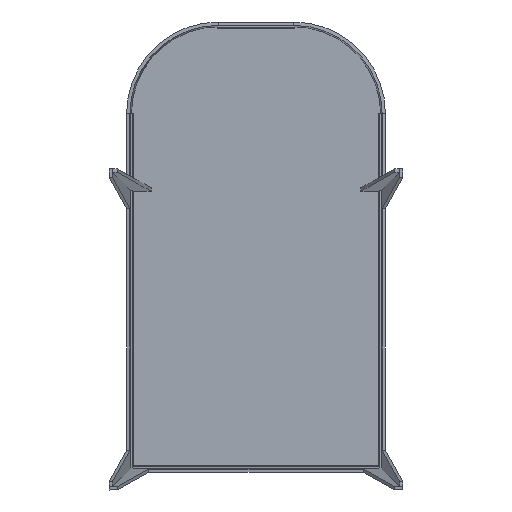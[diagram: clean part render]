
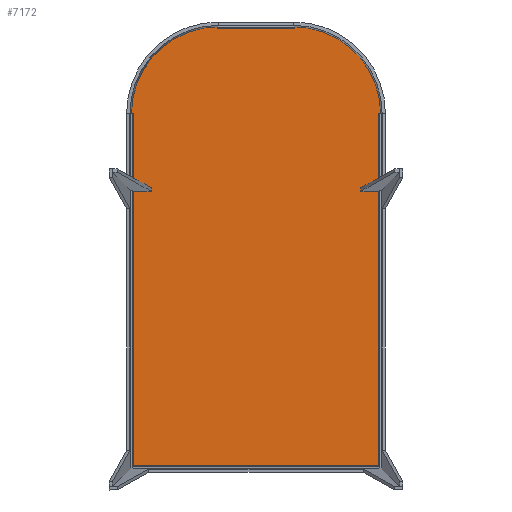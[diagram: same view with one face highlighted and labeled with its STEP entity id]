
A CAD part, front view. The second image highlights one B-rep face of the part: STEP entity #7172.
In plain terms, the highlighted planar face has unit normal (0, -1, 0) as drawn and (0, 0, 1) by its records, which use the part's own axes.
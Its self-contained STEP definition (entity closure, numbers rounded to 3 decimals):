
#130=CIRCLE('',#8004,157.);
#132=CIRCLE('',#8007,157.);
#763=ORIENTED_EDGE('',*,*,#2754,.T.);
#764=ORIENTED_EDGE('',*,*,#2750,.T.);
#765=ORIENTED_EDGE('',*,*,#2743,.T.);
#766=ORIENTED_EDGE('',*,*,#2748,.T.);
#767=ORIENTED_EDGE('',*,*,#2758,.T.);
#768=ORIENTED_EDGE('',*,*,#2762,.F.);
#769=ORIENTED_EDGE('',*,*,#2763,.T.);
#770=ORIENTED_EDGE('',*,*,#2764,.T.);
#771=ORIENTED_EDGE('',*,*,#2765,.T.);
#772=ORIENTED_EDGE('',*,*,#2766,.T.);
#773=ORIENTED_EDGE('',*,*,#2767,.T.);
#774=ORIENTED_EDGE('',*,*,#2768,.T.);
#775=ORIENTED_EDGE('',*,*,#2769,.T.);
#776=ORIENTED_EDGE('',*,*,#2759,.F.);
#2743=EDGE_CURVE('',#3747,#3746,#4411,.T.);
#2748=EDGE_CURVE('',#3746,#3749,#4415,.T.);
#2750=EDGE_CURVE('',#3750,#3747,#4417,.T.);
#2754=EDGE_CURVE('',#3753,#3750,#4421,.T.);
#2758=EDGE_CURVE('',#3749,#3755,#4425,.T.);
#2759=EDGE_CURVE('',#3753,#3756,#130,.T.);
#2762=EDGE_CURVE('',#3758,#3755,#132,.T.);
#2763=EDGE_CURVE('',#3758,#3759,#4427,.T.);
#2764=EDGE_CURVE('',#3759,#3760,#4428,.T.);
#2765=EDGE_CURVE('',#3760,#3761,#4429,.T.);
#2766=EDGE_CURVE('',#3761,#3762,#4430,.T.);
#2767=EDGE_CURVE('',#3762,#3763,#4431,.T.);
#2768=EDGE_CURVE('',#3763,#3764,#4432,.T.);
#2769=EDGE_CURVE('',#3764,#3756,#4433,.T.);
#3746=VERTEX_POINT('',#11018);
#3747=VERTEX_POINT('',#11020);
#3749=VERTEX_POINT('',#11027);
#3750=VERTEX_POINT('',#11032);
#3753=VERTEX_POINT('',#11040);
#3755=VERTEX_POINT('',#11046);
#3756=VERTEX_POINT('',#11050);
#3758=VERTEX_POINT('',#11056);
#3759=VERTEX_POINT('',#11058);
#3760=VERTEX_POINT('',#11060);
#3761=VERTEX_POINT('',#11062);
#3762=VERTEX_POINT('',#11064);
#3763=VERTEX_POINT('',#11066);
#3764=VERTEX_POINT('',#11068);
#4411=LINE('',#11019,#5128);
#4415=LINE('',#11028,#5132);
#4417=LINE('',#11031,#5134);
#4421=LINE('',#11039,#5138);
#4425=LINE('',#11047,#5142);
#4427=LINE('',#11057,#5144);
#4428=LINE('',#11059,#5145);
#4429=LINE('',#11061,#5146);
#4430=LINE('',#11063,#5147);
#4431=LINE('',#11065,#5148);
#4432=LINE('',#11067,#5149);
#4433=LINE('',#11069,#5150);
#5128=VECTOR('',#8784,1000.);
#5132=VECTOR('',#8792,1000.);
#5134=VECTOR('',#8796,1000.);
#5138=VECTOR('',#8802,1000.);
#5142=VECTOR('',#8808,1000.);
#5144=VECTOR('',#8820,1000.);
#5145=VECTOR('',#8821,1000.);
#5146=VECTOR('',#8822,1000.);
#5147=VECTOR('',#8823,1000.);
#5148=VECTOR('',#8824,1000.);
#5149=VECTOR('',#8825,1000.);
#5150=VECTOR('',#8826,1000.);
#5843=EDGE_LOOP('',(#763,#764,#765,#766,#767,#768,#769,#770,#771,#772,#773,
#774,#775,#776));
#6360=FACE_BOUND('',#5843,.T.);
#6876=PLANE('',#8006);
#7172=ADVANCED_FACE('',(#6360),#6876,.T.);
#8004=AXIS2_PLACEMENT_3D('',#11049,#8811,#8812);
#8006=AXIS2_PLACEMENT_3D('',#11054,#8816,#8817);
#8007=AXIS2_PLACEMENT_3D('',#11055,#8818,#8819);
#8784=DIRECTION('',(0.,-1.,0.));
#8792=DIRECTION('',(0.,-1.,0.));
#8796=DIRECTION('',(0.,-1.,0.));
#8802=DIRECTION('',(1.,0.,0.));
#8808=DIRECTION('',(-1.,0.,0.));
#8811=DIRECTION('',(0.,0.,-1.));
#8812=DIRECTION('',(-0.707,0.707,0.));
#8816=DIRECTION('',(0.,0.,1.));
#8817=DIRECTION('',(1.,0.,0.));
#8818=DIRECTION('',(0.,0.,-1.));
#8819=DIRECTION('',(-0.707,-0.707,0.));
#8820=DIRECTION('',(0.,1.,0.));
#8821=DIRECTION('',(1.,0.,0.));
#8822=DIRECTION('',(1.,0.,0.));
#8823=DIRECTION('',(0.,1.,0.));
#8824=DIRECTION('',(-1.,0.,0.));
#8825=DIRECTION('',(-1.,0.,0.));
#8826=DIRECTION('',(0.,1.,0.));
#11018=CARTESIAN_POINT('',(-341.614,-242.72,3.));
#11019=CARTESIAN_POINT('',(-341.614,-107.28,3.));
#11020=CARTESIAN_POINT('',(-341.614,-107.28,3.));
#11027=CARTESIAN_POINT('',(-341.614,-243.72,3.));
#11028=CARTESIAN_POINT('',(-341.614,-242.72,3.));
#11031=CARTESIAN_POINT('',(-341.614,-106.28,3.));
#11032=CARTESIAN_POINT('',(-341.614,-106.28,3.));
#11039=CARTESIAN_POINT('',(-345.276,-106.28,3.));
#11040=CARTESIAN_POINT('',(-345.276,-106.28,3.));
#11046=CARTESIAN_POINT('',(-345.276,-243.72,3.));
#11047=CARTESIAN_POINT('',(-341.614,-243.72,3.));
#11049=CARTESIAN_POINT('',(-188.28,-107.28,3.));
#11050=CARTESIAN_POINT('',(-189.28,49.717,3.));
#11054=CARTESIAN_POINT('',(52.22,-175.,3.));
#11055=CARTESIAN_POINT('',(-188.28,-242.72,3.));
#11056=CARTESIAN_POINT('',(-189.28,-399.717,3.));
#11057=CARTESIAN_POINT('',(-189.28,-399.717,3.));
#11058=CARTESIAN_POINT('',(-189.28,-396.055,3.));
#11059=CARTESIAN_POINT('',(-189.28,-396.055,3.));
#11060=CARTESIAN_POINT('',(-188.28,-396.055,3.));
#11061=CARTESIAN_POINT('',(-188.28,-396.055,3.));
#11062=CARTESIAN_POINT('',(446.055,-396.055,3.));
#11063=CARTESIAN_POINT('',(446.055,-396.055,3.));
#11064=CARTESIAN_POINT('',(446.055,46.055,3.));
#11065=CARTESIAN_POINT('',(446.055,46.055,3.));
#11066=CARTESIAN_POINT('',(-188.28,46.055,3.));
#11067=CARTESIAN_POINT('',(-188.28,46.055,3.));
#11068=CARTESIAN_POINT('',(-189.28,46.055,3.));
#11069=CARTESIAN_POINT('',(-189.28,46.055,3.));
